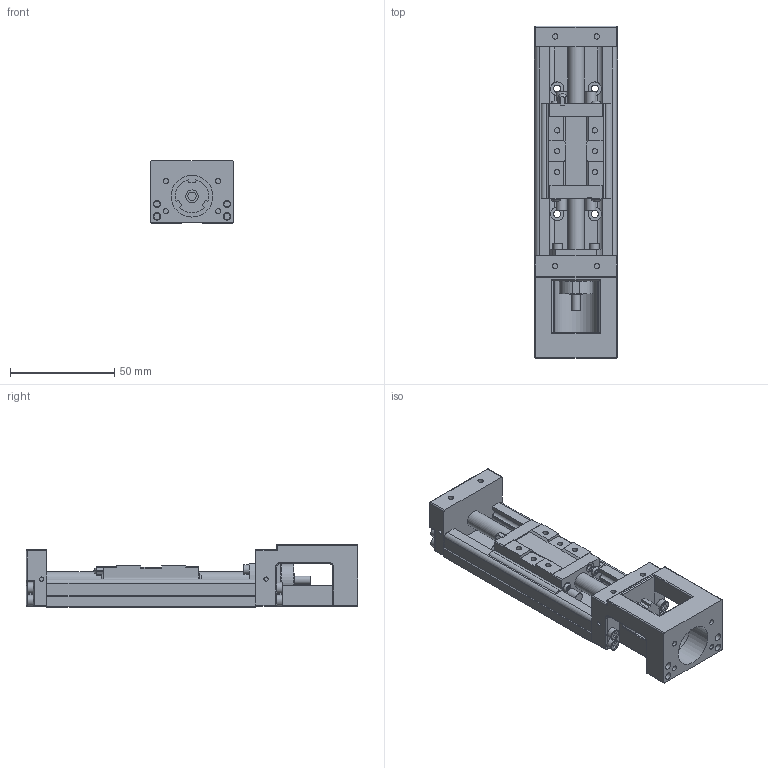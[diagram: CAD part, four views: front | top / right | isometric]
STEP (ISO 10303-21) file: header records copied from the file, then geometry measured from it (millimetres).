
FILE_DESCRIPTION(/* description */ (''),/* implementation_level */ '2;1');
FILE_NAME(/* name */ 'FKL40E100 2.5C7.stp',/* time_stamp */ '2018-12-26T14:36:03+08:00',/* author */ (''),/* organization */ (''),/* preprocessor_version */ 'ST-DEVELOPER v16',/* originating_system */ 'SIEMENS PLM Software NX 10.0',/* authorisation */ '');
FILE_SCHEMA (('AUTOMOTIVE_DESIGN { 1 0 10303 214 3 1 1 1 }'));
Length unit declared in the file: millimetre
Products named in the file (3): 滑块.KK40-A1; 轨道.KK40-100; FKL40E100 2.5C7
Assembly tree (2 placements, depth 2):
  FKL40E100 2.5C7
    轨道.KK40-100
    滑块.KK40-A1
Bounding box: 40 x 159 x 30 mm (x, y, z)
Volume: 90201.3 mm3; surface area: 38572.9 mm2
Topology: 2 solids, 2 shells, 522 faces, 1371 edges, 888 vertices
Faces by surface type: plane 338, cylinder 147, sphere 13, cone 12, torus 10, bspline 2
Full cylindrical faces by diameter (mm): 2.05 x4, 2.5 x15, 3.4 x4, 3.5 x4, 4 x1, 4.4 x8, 5 x7, 5.3 x8, 6 x2, 6.5 x4, 8 x2, 20 x1
Entity records: 15934 total; most frequent: CARTESIAN_POINT 3285, DIRECTION 2521, ORIENTED_EDGE 2452, EDGE_CURVE 1226, AXIS2_PLACEMENT_3D 844, LINE 833, VECTOR 833, VERTEX_POINT 832
